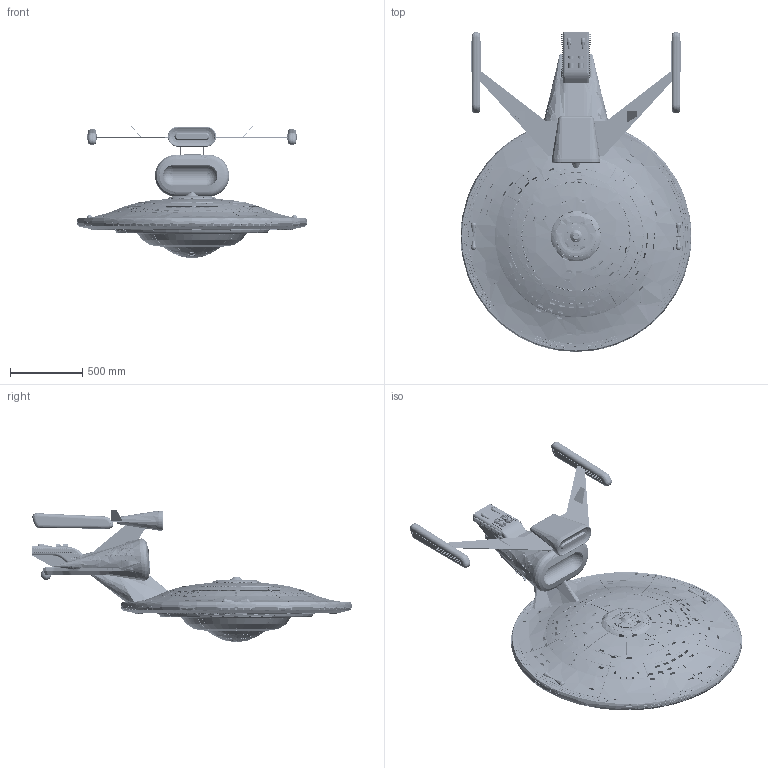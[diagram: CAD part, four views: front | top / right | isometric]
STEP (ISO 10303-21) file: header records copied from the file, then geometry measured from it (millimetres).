
FILE_DESCRIPTION((' '),'2;1');
FILE_NAME('C:\Users\oke12785\Desktop\New folder\USS Emporer.stp','2014-12-09T11:56:53',(' '),(' '),' ','ACIS',' ');
FILE_SCHEMA(('CONFIG_CONTROL_DESIGN'));
Length unit declared in the file: inch
Products named in the file (17): C:\Users\oke12785\Desktop\New folder\USS Emporer.stp; Body1; Body2; Body3; Body4; Body5; Body6; Body7; Body8; Body9; Body10; Body11; Body12; Body13; Body14; Body15; Body16
Assembly tree (16 placements, depth 2):
  C:\Users\oke12785\Desktop\New folder\USS Emporer.stp
    Body1
    Body2
    Body3
    Body4
    Body5
    Body6
    Body7
    Body8
    Body9
    Body10
    Body11
    Body12
    Body13
    Body14
    Body15
    Body16
Bounding box: 1592.85 x 2205.49 x 913.64 mm (x, y, z)
Volume: 72431943.3 mm3; surface area: 8338038.5 mm2
Topology: 18 solids, 19 shells, 16413 faces, 42706 edges, 26697 vertices
Faces by surface type: bspline 7620, plane 7344, cone 887, cylinder 491, torus 66, sphere 5
Full cylindrical faces by diameter (mm): 0.669 x6, 5.882 x14, 5.998 x3, 7.152 x3
Entity records: 521022 total; most frequent: CARTESIAN_POINT 151314, ORIENTED_EDGE 84426, DIRECTION 60737, EDGE_CURVE 42268, VECTOR 31065, LINE 31065, VERTEX_POINT 26623, EDGE_LOOP 17963
